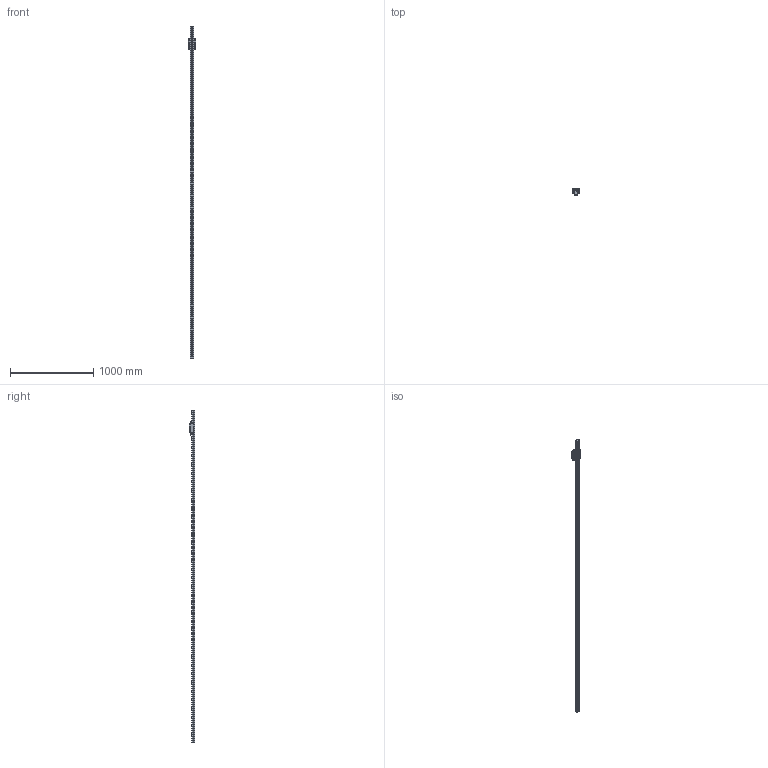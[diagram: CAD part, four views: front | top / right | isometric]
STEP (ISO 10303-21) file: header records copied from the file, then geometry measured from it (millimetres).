
FILE_DESCRIPTION((''),'2;1');
FILE_NAME('BRS45-R0_CUSTOMER_ASM_ASM','2020-11-24T13:44:49',('TWVS2025'),(''),'CREO PARAMETRIC BY PTC INC, 2018420','CREO PARAMETRIC BY PTC INC, 2018420','');
FILE_SCHEMA(('CONFIG_CONTROL_DESIGN'));
Products named in the file (4): BC-BRD45-R0_ASM_1; BRS45-R0_CUSTOMER_ASM_1_ASM; BRR45_CUSTOMER_1; BRS45-R0_CUSTOMER_ASM_ASM
Assembly tree (3 placements, depth 3):
  BRS45-R0_CUSTOMER_ASM_ASM
    BRS45-R0_CUSTOMER_ASM_1_ASM
      BC-BRD45-R0_ASM_1
    BRR45_CUSTOMER_1
Bounding box: 85.95 x 70 x 4000 mm (x, y, z)
Volume: 5868318.8 mm3; surface area: 878002.8 mm2
Topology: 1 solids, 72 shells, 1672 faces, 4771 edges, 3048 vertices
Faces by surface type: plane 697, cylinder 528, sphere 183, bspline 112, cone 96, torus 52, extrusion 4
Entity records: 78804 total; most frequent: CARTESIAN_POINT 36761, ORIENTED_EDGE 8971, DIRECTION 8460, EDGE_CURVE 4503, AXIS2_PLACEMENT_3D 3124, VERTEX_POINT 3048, VECTOR 2212, LINE 2208
